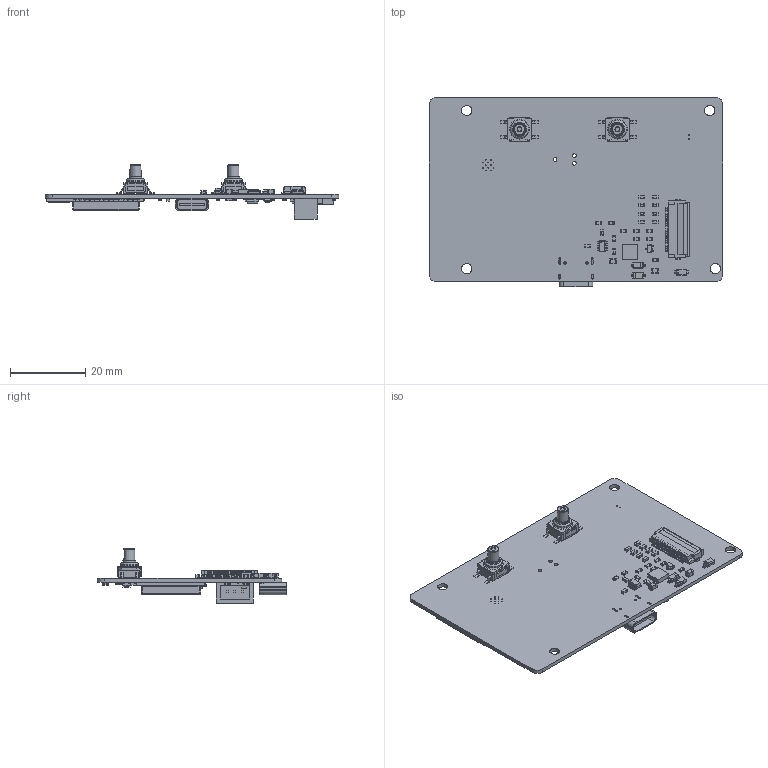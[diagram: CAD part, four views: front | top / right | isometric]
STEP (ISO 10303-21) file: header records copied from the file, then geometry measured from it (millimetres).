
FILE_DESCRIPTION(('KiCad electronic assembly'),'2;1');
FILE_NAME('cicala_rev_a_board.step','2026-09-08T00:24:42',('Pcbnew'),( 'Kicad'),'Open CASCADE STEP processor 7.9','KiCad to STEP converter' ,'Unknown');
FILE_SCHEMA(('AUTOMOTIVE_DESIGN { 1 0 10303 214 1 1 1 1 }'));
Length unit declared in the file: millimetre
Products named in the file (53): cicala_rev_a_board 1; SOT-23-6; C_0603_1608Metric; D_SOD-123; R_0603_1608Metric; TDK_VLS4012CX_envelope; body_0; SW_Push_1P1T_NO_CK_KSC6xxG; C_0805_2012Metric; SOT-323_SC-70; Hirose_FH12-24S-0.5SH_1x24-1MP_P0.50mm_Horizontal; Hirose_FH12_xxS_0_5SH_Parametric_v0_1; body; lock; pins; TPS63802_DLA0010A_envelope; JST_S3B_PH_SM4_TB_envelope; body_1; body_2; body_3; SOT-23; Coilcraft_XFL4015_envelope; Texas_DLH0010A_WSON-10-1EP_2.2x2mm_P0.4mm_EP0.9x1.5mm; Kingbright_APBA2006_envelope; VSSOP-8_3x3mm_P0.65mm; HRO_TYPE_C_31_M_12_envelope; ESP32-S3-WROOM-1; cicala_rev_a_PCB
Assembly tree (123 placements, depth 4):
  cicala_rev_a_board 1
    SOT-23-6  x3
      SOT-23-6
    C_0603_1608Metric  x25
      C_0603_1608Metric
    D_SOD-123  x3
      D_SOD-123
    R_0603_1608Metric  x38
      R_0603_1608Metric
    TDK_VLS4012CX_envelope
      TDK_VLS4012CX_envelope
        body_0
    SW_Push_1P1T_NO_CK_KSC6xxG  x2
      SW_Push_1P1T_NO_CK_KSC6xxG
    C_0805_2012Metric  x6
      C_0805_2012Metric
    SOT-323_SC-70
      SOT-323_SC-70
    Hirose_FH12-24S-0.5SH_1x24-1MP_P0.50mm_Horizontal
      Hirose_FH12_xxS_0_5SH_Parametric_v0_1
        body
        lock
        pins
    TPS63802_DLA0010A_envelope
      TPS63802_DLA0010A_envelope
        body_0
    JST_S3B_PH_SM4_TB_envelope
      JST_S3B_PH_SM4_TB_envelope
        body_0
        body_1
        body_2
        body_3
    SOT-23
      SOT-23
    Coilcraft_XFL4015_envelope
      Coilcraft_XFL4015_envelope
        body_0
    Texas_DLH0010A_WSON-10-1EP_2.2x2mm_P0.4mm_EP0.9x1.5mm
      Texas_DLH0010A_WSON-10-1EP_2.2x2mm_P0.4mm_EP0.9x1.5mm
    Kingbright_APBA2006_envelope
      Kingbright_APBA2006_envelope
        body_0
        body_1
    VSSOP-8_3x3mm_P0.65mm
      VSSOP-8_3x3mm_P0.65mm
    HRO_TYPE_C_31_M_12_envelope
      HRO_TYPE_C_31_M_12_envelope
        body_0
        body_1
        body_2
    ESP32-S3-WROOM-1
      ESP32-S3-WROOM-1
    cicala_rev_a_PCB
Bounding box: 78 x 50.27 x 14.42 mm (x, y, z)
Volume: 5895.7 mm3; surface area: 12693.7 mm2
Topology: 149 solids, 149 shells, 4768 faces, 12208 edges, 7820 vertices
Faces by surface type: plane 3560, cylinder 1048, bspline 144, torus 8, cone 4, sphere 4
Full cylindrical faces by diameter (mm): 0.2 x14, 0.25 x1, 0.5 x1, 0.65 x2, 0.991 x3, 2.7 x4, 3 x2, 3.4 x2, 4.7 x2
Entity records: 90748 total; most frequent: CARTESIAN_POINT 13281, ORIENTED_EDGE 12616, DIRECTION 11927, EDGE_CURVE 6309, LINE 5547, VECTOR 5547, VERTEX_POINT 3984, AXIS2_PLACEMENT_3D 3190
